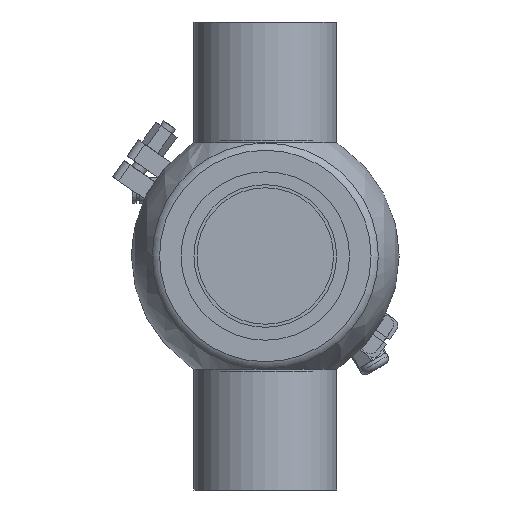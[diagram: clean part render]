
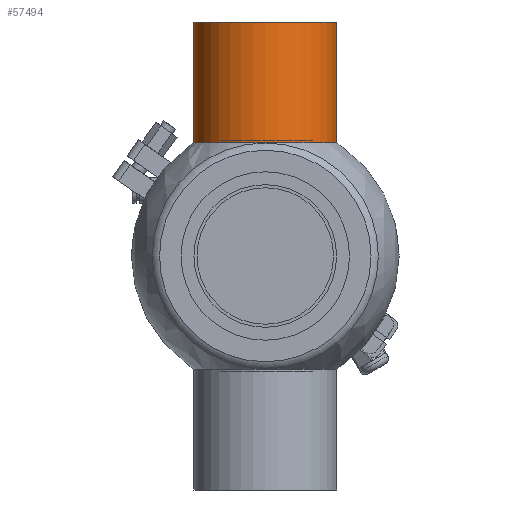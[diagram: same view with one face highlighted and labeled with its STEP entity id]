
A CAD part, front view. The second image highlights one B-rep face of the part: STEP entity #57494.
In plain terms, the highlighted cylindrical face has radius 38.1 mm (diameter 76.2 mm), a full revolution.
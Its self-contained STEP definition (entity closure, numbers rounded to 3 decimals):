
#1916 = DIRECTION ( 'NONE',  ( 0., 0., 1. ) ) ;
#3263 = CARTESIAN_POINT ( 'NONE',  ( 125., 0., 38.1 ) ) ;
#3311 = CYLINDRICAL_SURFACE ( 'NONE', #26436, 38.1 ) ;
#3955 = CARTESIAN_POINT ( 'NONE',  ( 0., 0., 0. ) ) ;
#7980 = AXIS2_PLACEMENT_3D ( 'NONE', #48423, #29913, #57968 ) ;
#14676 = EDGE_LOOP ( 'NONE', ( #58939 ) ) ;
#16533 = VERTEX_POINT ( 'NONE', #3263 ) ;
#17184 = FACE_OUTER_BOUND ( 'NONE', #22125, .T. ) ;
#18130 = DIRECTION ( 'NONE',  ( 0., 0., 1. ) ) ;
#22125 = EDGE_LOOP ( 'NONE', ( #43910 ) ) ;
#22739 = CARTESIAN_POINT ( 'NONE',  ( 60.503, 0., 38.1 ) ) ;
#22767 = DIRECTION ( 'NONE',  ( -1., 0., 0. ) ) ;
#24920 = EDGE_CURVE ( 'NONE', #16533, #16533, #39934, .T. ) ;
#26436 = AXIS2_PLACEMENT_3D ( 'NONE', #3955, #22767, #18130 ) ;
#29913 = DIRECTION ( 'NONE',  ( 1., 0., 0. ) ) ;
#31095 = FACE_OUTER_BOUND ( 'NONE', #14676, .T. ) ;
#32898 = VERTEX_POINT ( 'NONE', #22739 ) ;
#34586 = CIRCLE ( 'NONE', #7980, 38.1 ) ;
#39248 = CARTESIAN_POINT ( 'NONE',  ( 125., 0., 0. ) ) ;
#39934 = CIRCLE ( 'NONE', #42906, 38.1 ) ;
#42906 = AXIS2_PLACEMENT_3D ( 'NONE', #39248, #58028, #1916 ) ;
#43910 = ORIENTED_EDGE ( 'NONE', *, *, #60901, .T. ) ;
#48423 = CARTESIAN_POINT ( 'NONE',  ( 60.503, 0., 0. ) ) ;
#57494 = ADVANCED_FACE ( 'NONE', ( #17184, #31095 ), #3311, .T. ) ;
#57968 = DIRECTION ( 'NONE',  ( 0., 0., 1. ) ) ;
#58028 = DIRECTION ( 'NONE',  ( -1., 0., 0. ) ) ;
#58939 = ORIENTED_EDGE ( 'NONE', *, *, #24920, .T. ) ;
#60901 = EDGE_CURVE ( 'NONE', #32898, #32898, #34586, .T. ) ;
